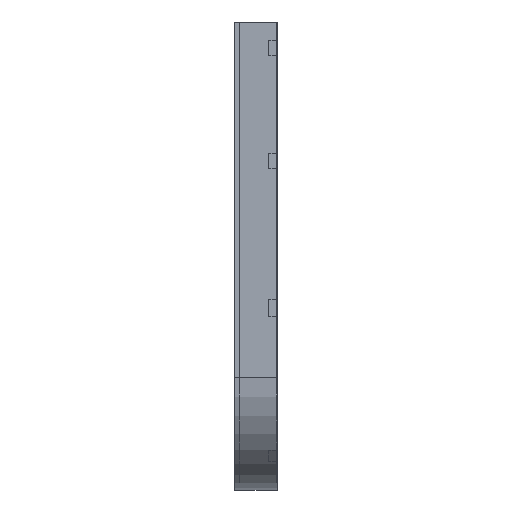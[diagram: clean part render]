
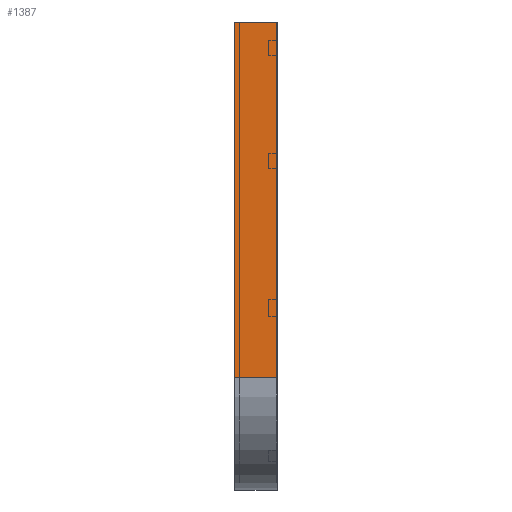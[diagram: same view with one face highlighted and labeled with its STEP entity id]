
A CAD part, left-side view. The second image highlights one B-rep face of the part: STEP entity #1387.
In plain terms, the highlighted planar face has unit normal (-1, 0, 0).
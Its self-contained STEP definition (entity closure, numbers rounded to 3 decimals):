
#2 = DIRECTION ( 'NONE',  ( 1., 0., 0. ) ) ;
#9 = DIRECTION ( 'NONE',  ( 0., -1., 0. ) ) ;
#18 = VECTOR ( 'NONE', #2204, 1000. ) ;
#158 = DIRECTION ( 'NONE',  ( 0., 0., -1. ) ) ;
#188 = LINE ( 'NONE', #538, #811 ) ;
#194 = PLANE ( 'NONE',  #1333 ) ;
#300 = EDGE_CURVE ( 'NONE', #1235, #400, #1550, .T. ) ;
#329 = ORIENTED_EDGE ( 'NONE', *, *, #452, .T. ) ;
#400 = VERTEX_POINT ( 'NONE', #1947 ) ;
#422 = ORIENTED_EDGE ( 'NONE', *, *, #1892, .F. ) ;
#444 = LINE ( 'NONE', #2214, #717 ) ;
#449 = CARTESIAN_POINT ( 'NONE',  ( 0., 0., -950. ) ) ;
#452 = EDGE_CURVE ( 'NONE', #986, #2229, #188, .T. ) ;
#538 = CARTESIAN_POINT ( 'NONE',  ( 0., 0., -950. ) ) ;
#544 = CARTESIAN_POINT ( 'NONE',  ( 0., 0., 0. ) ) ;
#628 = DIRECTION ( 'NONE',  ( 0., 0., -1. ) ) ;
#633 = CARTESIAN_POINT ( 'NONE',  ( 0., 112.5, 0. ) ) ;
#717 = VECTOR ( 'NONE', #628, 1000. ) ;
#803 = CARTESIAN_POINT ( 'NONE',  ( 0., 0., 0. ) ) ;
#811 = VECTOR ( 'NONE', #9, 1000. ) ;
#833 = DIRECTION ( 'NONE',  ( 0., 0., -1. ) ) ;
#885 = FACE_OUTER_BOUND ( 'NONE', #2022, .T. ) ;
#986 = VERTEX_POINT ( 'NONE', #1737 ) ;
#1180 = ORIENTED_EDGE ( 'NONE', *, *, #2008, .T. ) ;
#1235 = VERTEX_POINT ( 'NONE', #633 ) ;
#1333 = AXIS2_PLACEMENT_3D ( 'NONE', #544, #2, #158 ) ;
#1387 = ADVANCED_FACE ( 'NONE', ( #885 ), #194, .F. ) ;
#1550 = LINE ( 'NONE', #803, #18 ) ;
#1737 = CARTESIAN_POINT ( 'NONE',  ( 0., 112.5, -950. ) ) ;
#1750 = LINE ( 'NONE', #1915, #1894 ) ;
#1892 = EDGE_CURVE ( 'NONE', #400, #2229, #444, .T. ) ;
#1894 = VECTOR ( 'NONE', #833, 1000. ) ;
#1900 = ORIENTED_EDGE ( 'NONE', *, *, #300, .F. ) ;
#1915 = CARTESIAN_POINT ( 'NONE',  ( 0., 112.5, 0. ) ) ;
#1947 = CARTESIAN_POINT ( 'NONE',  ( 0., 0., 0. ) ) ;
#2008 = EDGE_CURVE ( 'NONE', #1235, #986, #1750, .T. ) ;
#2022 = EDGE_LOOP ( 'NONE', ( #422, #1900, #1180, #329 ) ) ;
#2204 = DIRECTION ( 'NONE',  ( 0., -1., 0. ) ) ;
#2214 = CARTESIAN_POINT ( 'NONE',  ( 0., 0., 0. ) ) ;
#2229 = VERTEX_POINT ( 'NONE', #449 ) ;
